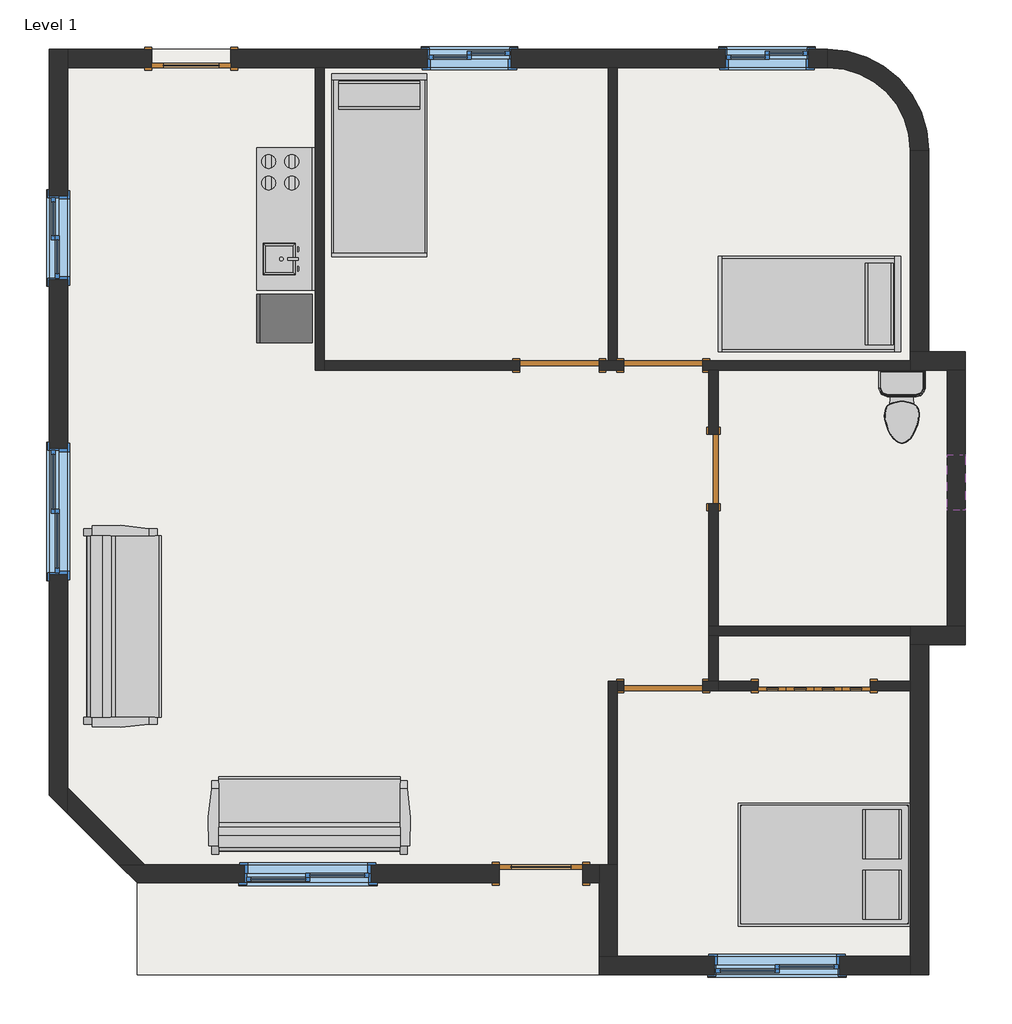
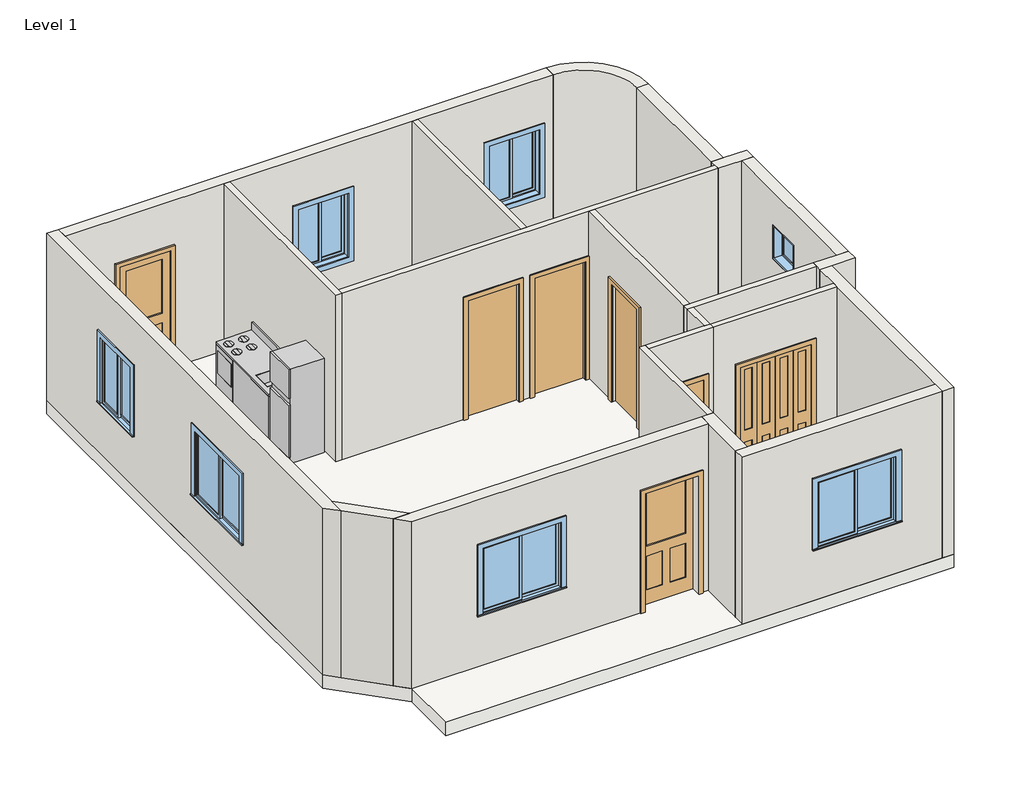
# One storey: 21 walls, 7 doors, 7 windows, 5 furniture elements, 2 flow terminals, 1 slab.
"""IFC4 building model written with IfcOpenShell, lengths in millimetres."""

from ifc_helpers import new_model, si_unit, point, frame, frame_2d, origin, origin_with_axes, place, context, project, spatial, polyline, circle_curve, trimmed, segment, composite_curve, outline, extrude, faceted_brep, transform, mapped, element, save
from components import m_bifold_4_panel_1220_x_2134mm_c9b228a8, m_single_decorative_1_0864_x_2134mm_a8b8a0d3, m_single_decorative_1_0914_x_2134mm_d79a5f66, m_single_flush_0762_x_2134mm_2f099e9c, m_single_flush_0864_x_2134mm_3838e64d, m_single_flush_0864_x_2134mm_bdbe8edc, m_kitchen_unit_635_mmx2135_mm_826748c3, m_toilet_domestic_3d_m_toilet_domestic_3d_5cb52bd4, m_toilet_domestic_3d_m_toilet_domestic_3d_183bbd19, m_bed_box_1346_x_1880mm_double_9a731973, m_bed_shaker_1040_x_1981mm_twin_31f1bf66, m_sofa_pensi_2134mm_eda8efce, m_fixed_0610_x_0610mm_cacddef9, m_sliding_with_trim_0915_x_1220mm_c5f69082, m_sliding_with_trim_1372_x_1220mm_1cbd48f5

model = new_model("IFC4")

# Units and contexts
model_context = context("Model", 3, world=origin())
ifc_project = project(units=[si_unit("LENGTHUNIT", "METRE", prefix="MILLI")], contexts=[model_context])

# Site, building, storey
site = spatial("IfcSite", under=ifc_project)
building = spatial("IfcBuilding", under=site)
storey = spatial("IfcBuildingStorey", under=building, Name="Level 1", Elevation=0.0)

# Doors
placement = place(None, origin())
m_bifold_4_panel_1220_x_2134mm_shape = m_bifold_4_panel_1220_x_2134mm_c9b228a8(model_context)
element("IfcDoor", 1, ObjectType="M_Bifold-4 Panel : 1220 x 2134mm", at=placement, inside=storey, context=model_context, shape_type="MappedRepresentation", body=[
    mapped(m_bifold_4_panel_1220_x_2134mm_shape, transform((-9012.9123896, -2705.4324328, 0.0), x_axis=(-1.0, 0.0, 0.0), y_axis=(0.0, -1.0, 0.0), z_axis=(0.0, 0.0, 1.0))),
])
m_single_decorative_1_0864_x_2134mm_shape = m_single_decorative_1_0864_x_2134mm_a8b8a0d3(model_context)
element("IfcDoor", 2, ObjectType="M_Single-Decorative 1 : 0864 x 2134mm", at=placement, inside=storey, context=model_context, shape_type="MappedRepresentation", body=[
    mapped(m_single_decorative_1_0864_x_2134mm_shape, transform((-15812.9123896, 4144.5675672, 0.0), x_axis=(-1.0, 0.0, 0.0), y_axis=(0.0, -1.0, 0.0), z_axis=(0.0, 0.0, 1.0))),
])
m_single_decorative_1_0914_x_2134mm_shape = m_single_decorative_1_0914_x_2134mm_d79a5f66(model_context)
element("IfcDoor", 3, ObjectType="M_Single-Decorative 1 : 0914 x 2134mm", at=placement, inside=storey, context=model_context, shape_type="MappedRepresentation", body=[
    mapped(m_single_decorative_1_0914_x_2134mm_shape, transform((-11994.9123896, -4755.4324328, 0.0), x_axis=(1.0, 0.0, 0.0), y_axis=(0.0, 1.0, 0.0), z_axis=(0.0, 0.0, 1.0))),
])
m_single_flush_0762_x_2134mm_shape = m_single_flush_0762_x_2134mm_2f099e9c(model_context)
element("IfcDoor", 4, ObjectType="M_Single-Flush : 0762 x 2134mm", at=placement, inside=storey, context=model_context, shape_type="MappedRepresentation", body=[
    mapped(m_single_flush_0762_x_2134mm_shape, transform((-10112.9123896, -336.4324328, 0.0), x_axis=(0.0, 1.0, 0.0), y_axis=(-1.0, 0.0, 0.0), z_axis=(0.0, 0.0, 1.0))),
])
m_single_flush_0864_x_2134mm_shape = m_single_flush_0864_x_2134mm_3838e64d(model_context)
element("IfcDoor", 5, ObjectType="M_Single-Flush : 0864 x 2134mm", at=placement, inside=storey, context=model_context, shape_type="MappedRepresentation", body=[
    mapped(m_single_flush_0864_x_2134mm_shape, transform((-10662.9123896, -2705.4324328, 0.0), x_axis=(-1.0, 0.0, 0.0), y_axis=(0.0, -1.0, 0.0), z_axis=(0.0, 0.0, 1.0))),
])
element("IfcDoor", 6, ObjectType="M_Single-Flush : 0864 x 2134mm", at=placement, inside=storey, context=model_context, shape_type="MappedRepresentation", body=[
    mapped(m_single_flush_0864_x_2134mm_shape, transform((-11794.9123896, 794.5675672, 0.0), x_axis=(1.0, 0.0, 0.0), y_axis=(0.0, 1.0, 0.0), z_axis=(0.0, 0.0, 1.0))),
])
m_single_flush_0864_x_2134mm_2_shape = m_single_flush_0864_x_2134mm_bdbe8edc(model_context)
element("IfcDoor", 7, ObjectType="M_Single-Flush : 0864 x 2134mm", at=placement, inside=storey, context=model_context, shape_type="MappedRepresentation", body=[
    mapped(m_single_flush_0864_x_2134mm_2_shape, transform((-10662.9123896, 794.5675672, 0.0), x_axis=(-1.0, 0.0, 0.0), y_axis=(0.0, -1.0, 0.0), z_axis=(0.0, 0.0, 1.0))),
])

# Flow terminals
m_kitchen_unit_635_mmx2135_mm_shape = m_kitchen_unit_635_mmx2135_mm_826748c3(model_context)
element("IfcFlowTerminal", 8, ObjectType="M_Kitchen Unit : 635 mmx2135 mm", at=placement, inside=storey, context=model_context, shape_type="MappedRepresentation", body=[
    mapped(m_kitchen_unit_635_mmx2135_mm_shape, transform((-14462.9123896, 2394.5675672, 0.0), x_axis=(-1.0000000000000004, 0.0, 0.0), y_axis=(0.0, -1.0000000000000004, 0.0), z_axis=(0.0, 0.0, 1.0))),
])
m_toilet_domestic_3d_m_toilet_domestic_3d_shape = m_toilet_domestic_3d_m_toilet_domestic_3d_5cb52bd4(model_context)
m_toilet_domestic_3d_m_toilet_domestic_3d_2_shape = m_toilet_domestic_3d_m_toilet_domestic_3d_183bbd19(model_context)
element("IfcFlowTerminal", 9, ObjectType="M_Toilet-Domestic-3D : M_Toilet-Domestic-3D", at=placement, inside=storey, context=model_context, shape_type="MappedRepresentation", body=[
    mapped(m_toilet_domestic_3d_m_toilet_domestic_3d_shape, transform((-8056.308417, 249.8715399, 0.0), x_axis=(1.0, 0.0, 0.0), y_axis=(0.0, 1.0, 0.0), z_axis=(0.0, 0.0, 1.0))),
    mapped(m_toilet_domestic_3d_m_toilet_domestic_3d_2_shape, transform((-8056.308417, 249.8715399, 0.0), x_axis=(1.0, 0.0, 0.0), y_axis=(0.0, 1.0, 0.0), z_axis=(0.0, 0.0, 1.0))),
])

# Furniture
m_bed_box_1346_x_1880mm_double_shape = m_bed_box_1346_x_1880mm_double_9a731973(model_context)
element("IfcFurniture", 10, ObjectType="M_Bed-Box : 1346 x 1880mm - Double", at=placement, inside=storey, context=model_context, shape_type="MappedRepresentation", body=[
    mapped(m_bed_box_1346_x_1880mm_double_shape, transform((-8668.4828814, -4316.2799738, 0.0), x_axis=(0.0, -1.0, 0.0), y_axis=(1.0, 0.0, 0.0), z_axis=(0.0, 0.0, 1.0))),
])
m_bed_shaker_1040_x_1981mm_twin_shape = m_bed_shaker_1040_x_1981mm_twin_31f1bf66(model_context)
element("IfcFurniture", 11, ObjectType="M_Bed-Shaker : 1040 x 1981mm - Twin", at=placement, inside=storey, context=model_context, shape_type="MappedRepresentation", body=[
    mapped(m_bed_shaker_1040_x_1981mm_twin_shape, transform((-8081.7123896, 1446.2175672, 0.0), x_axis=(0.0, -1.0000000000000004, 0.0), y_axis=(1.0000000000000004, 0.0, 0.0), z_axis=(0.0, 0.0, 1.0))),
])
element("IfcFurniture", 12, ObjectType="M_Bed-Shaker : 1040 x 1981mm - Twin", at=placement, inside=storey, context=model_context, shape_type="MappedRepresentation", body=[
    mapped(m_bed_shaker_1040_x_1981mm_twin_shape, transform((-13743.1623896, 3964.5675672, 0.0), x_axis=(1.0, 0.0, 0.0), y_axis=(0.0, 1.0, 0.0), z_axis=(0.0, 0.0, 1.0))),
])
m_sofa_pensi_2134mm_shape = m_sofa_pensi_2134mm_eda8efce(model_context)
element("IfcFurniture", 13, ObjectType="M_Sofa-Pensi : 2134mm", at=placement, inside=storey, context=model_context, shape_type="MappedRepresentation", body=[
    mapped(m_sofa_pensi_2134mm_shape, transform((-14244.3061396, -3838.3225967, 0.0), x_axis=(-0.9999999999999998, 0.0, 0.0), y_axis=(0.0, -0.9999999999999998, 0.0), z_axis=(0.0, 0.0, 1.0))),
])
element("IfcFurniture", 14, ObjectType="M_Sofa-Pensi : 2134mm", at=placement, inside=storey, context=model_context, shape_type="MappedRepresentation", body=[
    mapped(m_sofa_pensi_2134mm_shape, transform((-16285.8025536, -2334.0386828, 0.0), x_axis=(0.0, 1.0000000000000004, 0.0), y_axis=(-1.0000000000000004, 0.0, 0.0), z_axis=(0.0, 0.0, 1.0))),
])

# Slab
element("IfcSlab", 15, ObjectType="Standard Timber-Wood Finish", at=placement, inside=storey, context=model_context, shape_type="SweptSolid", body=[
    extrude(outline(composite_curve([segment(polyline([(-7762.9123896, 944.5675672), (-7362.9123896, 944.5675672), (-7362.9123896, -2255.4324328), (-7762.9123896, -2255.4324328), (-7762.9123896, -5855.4324328), (-16404.3337459, -5855.4324328), (-16404.3337459, -4855.4324328), (-17362.9123896, -3896.853789), (-17362.9123896, 4244.5675672), (-8862.9123896, 4244.5675672)]), True, "CONTINUOUS"), segment(trimmed(circle_curve(frame_2d((-8862.9123896, 3144.5675672)), 1100.0), [point((-8862.9123896, 4244.5675672))], [point((-7762.9123896, 3144.5675672))], False, "CARTESIAN"), True, "CONTINUOUS"), segment(polyline([(-7762.9123896, 3144.5675672), (-7762.9123896, 944.5675672)]), True, "CONTINUOUS")], self_intersect=False)), frame((0.0, 0.0, -241.0), z_axis=(0.0, 0.0, 1.0), x_axis=(1.0, 0.0, 0.0)), (0.0, 0.0, 1.0), 241.0),
])

# Walls
element("IfcWall", 16, ObjectType="Generic - 100mm", at=placement, inside=storey, context=model_context, shape_type="Brep", body=[
    faceted_brep([(-7962.9123896, -2055.4324328, 0.0), (-10062.9123896, -2055.4324328, 0.0), (-10162.9123896, -2055.4324328, 0.0), (-10162.9123896, -2055.4324328, 3000.0), (-10062.9123896, -2055.4324328, 3000.0), (-7962.9123896, -2055.4324328, 3000.0), (-7962.9123896, -2155.4324328, 0.0), (-7962.9123896, -2155.4324328, 3000.0), (-10062.9123896, -2155.4324328, 3000.0), (-10162.9123896, -2155.4324328, 3000.0), (-10162.9123896, -2155.4324328, 0.0), (-10062.9123896, -2155.4324328, 0.0)], [[[0, 1, 2, 3, 4, 5]], [[6, 7, 8, 9, 10, 11]], [[2, 1, 0, 6, 11, 10]], [[5, 4, 3, 9, 8, 7]], [[0, 5, 7, 6]], [[3, 2, 10, 9]]]),
])
element("IfcWall", 17, ObjectType="Generic - 100mm", at=placement, inside=storey, context=model_context, shape_type="Brep", body=[
    faceted_brep([(-11262.9123896, -2655.4324328, 0.0), (-11262.9123896, -4655.4324328, 0.0), (-11262.9123896, -4655.4324328, 3000.0), (-11262.9123896, -2655.4324328, 3000.0), (-11162.9123896, -2655.4324328, 0.0), (-11162.9123896, -2655.4324328, 3000.0), (-11162.9123896, -2755.4324328, 3000.0), (-11162.9123896, -4655.4324328, 3000.0), (-11162.9123896, -4655.4324328, 0.0), (-11162.9123896, -2755.4324328, 0.0)], [[[0, 1, 2, 3]], [[4, 5, 6, 7, 8, 9]], [[1, 0, 4, 9, 8]], [[3, 2, 7, 6, 5]], [[2, 1, 8, 7]], [[0, 3, 5, 4]]]),
])
element("IfcWall", 18, ObjectType="Generic - 100mm", at=placement, inside=storey, context=model_context, shape_type="Brep", body=[
    faceted_brep([(-11094.9123896, -2655.4324328, 2134.0), (-11094.9123896, -2655.4324328, 0.0), (-11162.9123896, -2655.4324328, 0.0), (-11162.9123896, -2655.4324328, 3000.0), (-10162.9123896, -2655.4324328, 3000.0), (-10062.9123896, -2655.4324328, 3000.0), (-10062.9123896, -2655.4324328, 0.0), (-10162.9123896, -2655.4324328, 0.0), (-10230.9123896, -2655.4324328, 0.0), (-10230.9123896, -2655.4324328, 2134.0), (-11162.9123896, -2755.4324328, 0.0), (-11094.9123896, -2755.4324328, 0.0), (-11094.9123896, -2755.4324328, 2134.0), (-10230.9123896, -2755.4324328, 2134.0), (-10230.9123896, -2755.4324328, 0.0), (-10062.9123896, -2755.4324328, 0.0), (-10062.9123896, -2755.4324328, 3000.0), (-11162.9123896, -2755.4324328, 3000.0)], [[[0, 1, 2, 3, 4, 5, 6, 7, 8, 9]], [[10, 11, 12, 13, 14, 15, 16, 17]], [[2, 1, 11, 10]], [[8, 7, 6, 15, 14]], [[5, 4, 3, 17, 16]], [[3, 2, 10, 17]], [[6, 5, 16, 15]], [[12, 11, 1, 0]], [[13, 12, 0, 9]], [[14, 13, 9, 8]]]),
])
element("IfcWall", 19, ObjectType="Generic - 100mm", at=placement, inside=storey, context=model_context, shape_type="SweptSolid", body=[
    extrude(outline(polyline([(-10162.9123896, -2655.4324328), (-10162.9123896, -2155.4324328), (-10062.9123896, -2155.4324328), (-10062.9123896, -2655.4324328), (-10162.9123896, -2655.4324328)])), origin_with_axes(), (0.0, 0.0, 1.0), 3000.0),
])
element("IfcWall", 20, ObjectType="Generic - 100mm", at=placement, inside=storey, context=model_context, shape_type="SweptSolid", body=[
    extrude(outline(polyline([(3000.0, -7962.9123896), (3000.0, -10062.9123896), (0.0, -10062.9123896), (0.0, -9622.9123896), (2134.0, -9622.9123896), (2134.0, -8402.9123896), (0.0, -8402.9123896), (0.0, -7962.9123896), (3000.0, -7962.9123896)])), frame((0.0, -2755.4324328, 0.0), z_axis=(0.0, 1.0, 0.0), x_axis=(0.0, 0.0, 1.0)), (0.0, 0.0, 1.0), 100.0),
])
element("IfcWall", 21, ObjectType="Generic - 100mm", at=placement, inside=storey, context=model_context, shape_type="Brep", body=[
    faceted_brep([(-11094.9123896, 844.5675672, 0.0), (-11162.9123896, 844.5675672, 0.0), (-11262.9123896, 844.5675672, 0.0), (-11362.9123896, 844.5675672, 0.0), (-11362.9123896, 844.5675672, 2134.0), (-12226.9123896, 844.5675672, 2134.0), (-12226.9123896, 844.5675672, 0.0), (-14362.9123896, 844.5675672, 0.0), (-14362.9123896, 844.5675672, 3000.0), (-11262.9123896, 844.5675672, 3000.0), (-11162.9123896, 844.5675672, 3000.0), (-7962.9123896, 844.5675672, 3000.0), (-7962.9123896, 844.5675672, 0.0), (-10230.9123896, 844.5675672, 0.0), (-10230.9123896, 844.5675672, 2134.0), (-11094.9123896, 844.5675672, 2134.0), (-11362.9123896, 744.5675672, 2134.0), (-11362.9123896, 744.5675672, 0.0), (-11094.9123896, 744.5675672, 0.0), (-11094.9123896, 744.5675672, 2134.0), (-10230.9123896, 744.5675672, 2134.0), (-10230.9123896, 744.5675672, 0.0), (-10162.9123896, 744.5675672, 0.0), (-10062.9123896, 744.5675672, 0.0), (-7962.9123896, 744.5675672, 0.0), (-7962.9123896, 744.5675672, 3000.0), (-10062.9123896, 744.5675672, 3000.0), (-10162.9123896, 744.5675672, 3000.0), (-14362.9123896, 744.5675672, 3000.0), (-14362.9123896, 744.5675672, 0.0), (-12226.9123896, 744.5675672, 0.0), (-12226.9123896, 744.5675672, 2134.0)], [[[0, 1, 2, 3, 4, 5, 6, 7, 8, 9, 10, 11, 12, 13, 14, 15]], [[16, 17, 18, 19, 20, 21, 22, 23, 24, 25, 26, 27, 28, 29, 30, 31]], [[13, 12, 24, 23, 22, 21]], [[30, 29, 7, 6]], [[18, 17, 3, 2, 1, 0]], [[11, 10, 9, 8, 28, 27, 26, 25]], [[12, 11, 25, 24]], [[8, 7, 29, 28]], [[19, 18, 0, 15]], [[20, 19, 15, 14]], [[21, 20, 14, 13]], [[4, 3, 17, 16]], [[5, 4, 16, 31]], [[6, 5, 31, 30]]]),
])
element("IfcWall", 22, ObjectType="Generic - 100mm", at=placement, inside=storey, context=model_context, shape_type="SweptSolid", body=[
    extrude(outline(polyline([(744.5675672, 0.0), (44.5675672, 0.0), (44.5675672, 2134.0), (-717.4324328, 2134.0), (-717.4324328, 0.0), (-2055.4324328, 0.0), (-2055.4324328, 3000.0), (744.5675672, 3000.0), (744.5675672, 0.0)])), frame((-10162.9123896, 0.0, 0.0), z_axis=(1.0, 0.0, 0.0), x_axis=(0.0, 1.0, 0.0)), (0.0, 0.0, 1.0), 100.0),
])
element("IfcWall", 23, ObjectType="Generic - 100mm", at=placement, inside=storey, context=model_context, shape_type="Brep", body=[
    faceted_brep([(-14462.9123896, 4044.5675672, 0.0), (-14462.9123896, 744.5675672, 0.0), (-14462.9123896, 744.5675672, 3000.0), (-14462.9123896, 4044.5675672, 3000.0), (-14362.9123896, 4044.5675672, 0.0), (-14362.9123896, 4044.5675672, 3000.0), (-14362.9123896, 844.5675672, 3000.0), (-14362.9123896, 744.5675672, 3000.0), (-14362.9123896, 744.5675672, 0.0), (-14362.9123896, 844.5675672, 0.0)], [[[0, 1, 2, 3]], [[4, 5, 6, 7, 8, 9]], [[1, 0, 4, 9, 8]], [[3, 2, 7, 6, 5]], [[0, 3, 5, 4]], [[2, 1, 8, 7]]]),
])
element("IfcWall", 24, ObjectType="Generic - 100mm", at=placement, inside=storey, context=model_context, shape_type="SweptSolid", body=[
    extrude(outline(polyline([(-11262.9123896, 844.5675672), (-11262.9123896, 4044.5675672), (-11162.9123896, 4044.5675672), (-11162.9123896, 844.5675672), (-11262.9123896, 844.5675672)])), origin_with_axes(), (0.0, 0.0, 1.0), 3000.0),
])
element("IfcWall", 25, ObjectType="Generic - 200mm", at=placement, inside=storey, context=model_context, shape_type="Brep", body=[
    faceted_brep([(-17162.9123896, -4096.853789, 0.0), (-17162.9123896, -3814.0110766, 0.0), (-17162.9123896, 4044.5675672, 0.0), (-17162.9123896, 4244.5675672, 0.0), (-17162.9123896, 4244.5675672, 3000.0), (-17162.9123896, 4044.5675672, 3000.0), (-17162.9123896, -3814.0110766, 3000.0), (-17162.9123896, -4096.853789, 3000.0), (-17162.9123896, -113.4824328, 2135.0), (-17162.9123896, -113.4824328, 915.0), (-17162.9123896, -1485.4824328, 915.0), (-17162.9123896, -1485.4824328, 2135.0), (-17162.9123896, 2644.5675672, 2135.0), (-17162.9123896, 2644.5675672, 915.0), (-17162.9123896, 1729.5675672, 915.0), (-17162.9123896, 1729.5675672, 2135.0), (-17362.9123896, -3896.853789, 0.0), (-17362.9123896, -3896.853789, 3000.0), (-17362.9123896, 4244.5675672, 3000.0), (-17362.9123896, 4244.5675672, 0.0), (-17362.9123896, -113.4824328, 2135.0), (-17362.9123896, -1485.4824328, 2135.0), (-17362.9123896, -1485.4824328, 915.0), (-17362.9123896, -113.4824328, 915.0), (-17362.9123896, 2644.5675672, 2135.0), (-17362.9123896, 1729.5675672, 2135.0), (-17362.9123896, 1729.5675672, 915.0), (-17362.9123896, 2644.5675672, 915.0)], [[[0, 1, 2, 3, 4, 5, 6, 7], [8, 9, 10, 11], [12, 13, 14, 15]], [[16, 17, 18, 19], [20, 21, 22, 23], [24, 25, 26, 27]], [[3, 2, 1, 0, 16, 19]], [[7, 6, 5, 4, 18, 17]], [[4, 3, 19, 18]], [[9, 8, 20, 23]], [[10, 9, 23, 22]], [[11, 10, 22, 21]], [[8, 11, 21, 20]], [[13, 12, 24, 27]], [[14, 13, 27, 26]], [[15, 14, 26, 25]], [[12, 15, 25, 24]], [[0, 7, 17, 16]]]),
])
element("IfcWall", 26, ObjectType="Generic - 200mm", at=placement, inside=storey, context=model_context, shape_type="Brep", body=[
    faceted_brep([(-8862.9123896, 4044.5675672, 0.0), (-8862.9123896, 4044.5675672, 3000.0), (-11162.9123896, 4044.5675672, 3000.0), (-11262.9123896, 4044.5675672, 3000.0), (-14362.9123896, 4044.5675672, 3000.0), (-14462.9123896, 4044.5675672, 3000.0), (-17162.9123896, 4044.5675672, 3000.0), (-17162.9123896, 4044.5675672, 0.0), (-16244.9123896, 4044.5675672, 0.0), (-16244.9123896, 4044.5675672, 2134.0), (-15380.9123896, 4044.5675672, 2134.0), (-15380.9123896, 4044.5675672, 0.0), (-14462.9123896, 4044.5675672, 0.0), (-14362.9123896, 4044.5675672, 0.0), (-11262.9123896, 4044.5675672, 0.0), (-11162.9123896, 4044.5675672, 0.0), (-9070.4373896, 4044.5675672, 2135.0), (-9070.4373896, 4044.5675672, 915.0), (-9985.4373896, 4044.5675672, 915.0), (-9985.4373896, 4044.5675672, 2135.0), (-12320.4373896, 4044.5675672, 2135.0), (-12320.4373896, 4044.5675672, 915.0), (-13235.4373896, 4044.5675672, 915.0), (-13235.4373896, 4044.5675672, 2135.0), (-8862.9123896, 4244.5675672, 3000.0), (-8862.9123896, 4244.5675672, 0.0), (-15380.9123896, 4244.5675672, 0.0), (-15380.9123896, 4244.5675672, 2134.0), (-16244.9123896, 4244.5675672, 2134.0), (-16244.9123896, 4244.5675672, 0.0), (-17162.9123896, 4244.5675672, 0.0), (-17162.9123896, 4244.5675672, 3000.0), (-9070.4373896, 4244.5675672, 2135.0), (-9985.4373896, 4244.5675672, 2135.0), (-9985.4373896, 4244.5675672, 915.0), (-9070.4373896, 4244.5675672, 915.0), (-12320.4373896, 4244.5675672, 2135.0), (-13235.4373896, 4244.5675672, 2135.0), (-13235.4373896, 4244.5675672, 915.0), (-12320.4373896, 4244.5675672, 915.0)], [[[0, 1, 2, 3, 4, 5, 6, 7, 8, 9, 10, 11, 12, 13, 14, 15], [16, 17, 18, 19], [20, 21, 22, 23]], [[24, 25, 26, 27, 28, 29, 30, 31], [32, 33, 34, 35], [36, 37, 38, 39]], [[7, 30, 29, 8]], [[25, 0, 15, 14, 13, 12, 11, 26]], [[1, 0, 25, 24]], [[6, 5, 4, 3, 2, 1, 24, 31]], [[7, 6, 31, 30]], [[28, 9, 8, 29]], [[9, 28, 27, 10]], [[10, 27, 26, 11]], [[17, 16, 32, 35]], [[18, 17, 35, 34]], [[19, 18, 34, 33]], [[16, 19, 33, 32]], [[21, 20, 36, 39]], [[22, 21, 39, 38]], [[23, 22, 38, 37]], [[20, 23, 37, 36]]]),
])
element("IfcWall", 27, ObjectType="Generic - 200mm", at=placement, inside=storey, context=model_context, shape_type="SweptSolid", body=[
    extrude(outline(polyline([(-7962.9123896, 944.5675672), (-7962.9123896, 3144.5675672), (-7762.9123896, 3144.5675672), (-7762.9123896, 944.5675672), (-7962.9123896, 944.5675672)])), origin_with_axes(), (0.0, 0.0, 1.0), 3000.0),
])
element("IfcWall", 28, ObjectType="Generic - 200mm", at=placement, inside=storey, context=model_context, shape_type="Brep", body=[
    faceted_brep([(-7962.9123896, 744.5675672, 0.0), (-7562.9123896, 744.5675672, 0.0), (-7362.9123896, 744.5675672, 0.0), (-7362.9123896, 744.5675672, 3000.0), (-7562.9123896, 744.5675672, 3000.0), (-7962.9123896, 744.5675672, 3000.0), (-7962.9123896, 944.5675672, 0.0), (-7962.9123896, 944.5675672, 3000.0), (-7762.9123896, 944.5675672, 3000.0), (-7362.9123896, 944.5675672, 3000.0), (-7362.9123896, 944.5675672, 0.0), (-7762.9123896, 944.5675672, 0.0), (-7962.9123896, 844.5675672, 0.0), (-7962.9123896, 844.5675672, 3000.0)], [[[0, 1, 2, 3, 4, 5]], [[6, 7, 8, 9, 10, 11]], [[2, 1, 0, 12, 6, 11, 10]], [[5, 4, 3, 9, 8, 7, 13]], [[0, 5, 13, 7, 6, 12]], [[3, 2, 10, 9]]]),
])
element("IfcWall", 29, ObjectType="Generic - 200mm", at=placement, inside=storey, context=model_context, shape_type="SweptSolid", body=[
    extrude(outline(polyline([(744.5675672, 0.0), (-2055.4324328, 0.0), (-2055.4324328, 3000.0), (744.5675672, 3000.0), (744.5675672, 0.0)]), holes=[polyline([(-177.8824328, 1800.0), (-177.8824328, 2410.0), (-787.8824328, 2410.0), (-787.8824328, 1800.0), (-177.8824328, 1800.0)])]), frame((-7562.9123896, 0.0, 0.0), z_axis=(1.0, 0.0, 0.0), x_axis=(0.0, 1.0, 0.0)), (0.0, 0.0, 1.0), 200.0),
])
element("IfcWall", 30, ObjectType="Generic - 200mm", at=placement, inside=storey, context=model_context, shape_type="Brep", body=[
    faceted_brep([(-7362.9123896, -2055.4324328, 0.0), (-7562.9123896, -2055.4324328, 0.0), (-7962.9123896, -2055.4324328, 0.0), (-7962.9123896, -2055.4324328, 3000.0), (-7562.9123896, -2055.4324328, 3000.0), (-7362.9123896, -2055.4324328, 3000.0), (-7362.9123896, -2255.4324328, 0.0), (-7362.9123896, -2255.4324328, 3000.0), (-7762.9123896, -2255.4324328, 3000.0), (-7962.9123896, -2255.4324328, 3000.0), (-7962.9123896, -2255.4324328, 0.0), (-7762.9123896, -2255.4324328, 0.0), (-7962.9123896, -2155.4324328, 0.0), (-7962.9123896, -2155.4324328, 3000.0)], [[[0, 1, 2, 3, 4, 5]], [[6, 7, 8, 9, 10, 11]], [[2, 1, 0, 6, 11, 10, 12]], [[5, 4, 3, 13, 9, 8, 7]], [[0, 5, 7, 6]], [[3, 2, 12, 10, 9, 13]]]),
])
element("IfcWall", 31, ObjectType="Generic - 200mm", at=placement, inside=storey, context=model_context, shape_type="Brep", body=[
    faceted_brep([(-7962.9123896, -2255.4324328, 0.0), (-7962.9123896, -2655.4324328, 0.0), (-7962.9123896, -2755.4324328, 0.0), (-7962.9123896, -5655.4324328, 0.0), (-7962.9123896, -5855.4324328, 0.0), (-7962.9123896, -5855.4324328, 3000.0), (-7962.9123896, -5655.4324328, 3000.0), (-7962.9123896, -2755.4324328, 3000.0), (-7962.9123896, -2655.4324328, 3000.0), (-7962.9123896, -2255.4324328, 3000.0), (-7762.9123896, -2255.4324328, 0.0), (-7762.9123896, -2255.4324328, 3000.0), (-7762.9123896, -5855.4324328, 3000.0), (-7762.9123896, -5855.4324328, 0.0)], [[[0, 1, 2, 3, 4, 5, 6, 7, 8, 9]], [[10, 11, 12, 13]], [[4, 3, 2, 1, 0, 10, 13]], [[9, 8, 7, 6, 5, 12, 11]], [[0, 9, 11, 10]], [[5, 4, 13, 12]]]),
])
element("IfcWall", 32, ObjectType="Generic - 200mm", at=placement, inside=storey, context=model_context, shape_type="Brep", body=[
    faceted_brep([(-7962.9123896, -5655.4324328, 0.0), (-11162.9123896, -5655.4324328, 0.0), (-11362.9123896, -5655.4324328, 0.0), (-11362.9123896, -5655.4324328, 3000.0), (-11162.9123896, -5655.4324328, 3000.0), (-7962.9123896, -5655.4324328, 3000.0), (-10104.8623896, -5655.4324328, 2135.0), (-10104.8623896, -5655.4324328, 915.0), (-8732.8623896, -5655.4324328, 915.0), (-8732.8623896, -5655.4324328, 2135.0), (-7962.9123896, -5855.4324328, 0.0), (-7962.9123896, -5855.4324328, 3000.0), (-11362.9123896, -5855.4324328, 3000.0), (-11362.9123896, -5855.4324328, 0.0), (-10104.8623896, -5855.4324328, 2135.0), (-8732.8623896, -5855.4324328, 2135.0), (-8732.8623896, -5855.4324328, 915.0), (-10104.8623896, -5855.4324328, 915.0)], [[[0, 1, 2, 3, 4, 5], [6, 7, 8, 9]], [[10, 11, 12, 13], [14, 15, 16, 17]], [[2, 1, 0, 10, 13]], [[5, 4, 3, 12, 11]], [[0, 5, 11, 10]], [[3, 2, 13, 12]], [[7, 6, 14, 17]], [[8, 7, 17, 16]], [[9, 8, 16, 15]], [[6, 9, 15, 14]]]),
])
element("IfcWall", 33, ObjectType="Generic - 200mm", at=placement, inside=storey, context=model_context, shape_type="Brep", body=[
    faceted_brep([(-11162.9123896, -5655.4324328, 0.0), (-11162.9123896, -4655.4324328, 0.0), (-11162.9123896, -4655.4324328, 3000.0), (-11162.9123896, -5655.4324328, 3000.0), (-11362.9123896, -5655.4324328, 0.0), (-11362.9123896, -5655.4324328, 3000.0), (-11362.9123896, -4855.4324328, 3000.0), (-11362.9123896, -4655.4324328, 3000.0), (-11362.9123896, -4655.4324328, 0.0), (-11362.9123896, -4855.4324328, 0.0), (-11262.9123896, -4655.4324328, 0.0), (-11262.9123896, -4655.4324328, 3000.0)], [[[0, 1, 2, 3]], [[4, 5, 6, 7, 8, 9]], [[1, 0, 4, 9, 8, 10]], [[3, 2, 11, 7, 6, 5]], [[0, 3, 5, 4]], [[2, 1, 10, 8, 7, 11]]]),
])
element("IfcWall", 34, ObjectType="Generic - 200mm", at=placement, inside=storey, context=model_context, shape_type="Brep", body=[
    faceted_brep([(-16604.3337459, -4655.4324328, 3000.0), (-16321.4910334, -4655.4324328, 3000.0), (-11362.9123896, -4655.4324328, 3000.0), (-11362.9123896, -4655.4324328, 0.0), (-11537.9123896, -4655.4324328, 0.0), (-11537.9123896, -4655.4324328, 2134.0), (-12451.9123896, -4655.4324328, 2134.0), (-12451.9123896, -4655.4324328, 0.0), (-16321.4910334, -4655.4324328, 0.0), (-16604.3337459, -4655.4324328, 0.0), (-15228.3873896, -4655.4324328, 2135.0), (-15228.3873896, -4655.4324328, 915.0), (-13856.3873896, -4655.4324328, 915.0), (-13856.3873896, -4655.4324328, 2135.0), (-11362.9123896, -4855.4324328, 3000.0), (-16404.3337459, -4855.4324328, 3000.0), (-16404.3337459, -4855.4324328, 0.0), (-12451.9123896, -4855.4324328, 0.0), (-12451.9123896, -4855.4324328, 2134.0), (-11537.9123896, -4855.4324328, 2134.0), (-11537.9123896, -4855.4324328, 0.0), (-11362.9123896, -4855.4324328, 0.0), (-15228.3873896, -4855.4324328, 2135.0), (-13856.3873896, -4855.4324328, 2135.0), (-13856.3873896, -4855.4324328, 915.0), (-15228.3873896, -4855.4324328, 915.0)], [[[0, 1, 2, 3, 4, 5, 6, 7, 8, 9], [10, 11, 12, 13]], [[14, 15, 16, 17, 18, 19, 20, 21], [22, 23, 24, 25]], [[3, 21, 20, 4]], [[16, 9, 8, 7, 17]], [[2, 1, 0, 15, 14]], [[19, 5, 4, 20]], [[5, 19, 18, 6]], [[6, 18, 17, 7]], [[11, 10, 22, 25]], [[12, 11, 25, 24]], [[13, 12, 24, 23]], [[10, 13, 23, 22]], [[3, 2, 14, 21]], [[0, 9, 16, 15]]]),
])
element("IfcWall", 35, ObjectType="Generic - 200mm", at=placement, inside=storey, context=model_context, shape_type="SweptSolid", body=[
    extrude(outline(composite_curve([segment(polyline([(-8862.9123896, 4044.5675672), (-8862.9123896, 4244.5675672)]), True, "CONTINUOUS"), segment(trimmed(circle_curve(frame_2d((-8862.9123896, 3144.5675672)), 1100.0), [point((-8862.9123896, 4244.5675672))], [point((-7762.9123896, 3144.5675672))], False, "CARTESIAN"), True, "CONTINUOUS"), segment(polyline([(-7762.9123896, 3144.5675672), (-7962.9123896, 3144.5675672)]), True, "CONTINUOUS"), segment(trimmed(circle_curve(frame_2d((-8862.9123896, 3144.5675672)), 900.0), [point((-7962.9123896, 3144.5675672))], [point((-8862.9123896, 4044.5675672))], True, "CARTESIAN"), True, "CONTINUOUS")], self_intersect=False)), origin_with_axes(), (0.0, 0.0, 1.0), 3000.0),
])
element("IfcWall", 36, ObjectType="Generic - 200mm", at=placement, inside=storey, context=model_context, shape_type="SweptSolid", body=[
    extrude(outline(polyline([(-17162.9123896, -3814.0110766), (-16321.4910334, -4655.4324328), (-16604.3337459, -4655.4324328), (-17162.9123896, -4096.853789), (-17162.9123896, -3814.0110766)])), origin_with_axes(), (0.0, 0.0, 1.0), 3000.0),
])

# Windows
m_fixed_0610_x_0610mm_shape = m_fixed_0610_x_0610mm_cacddef9(model_context)
element("IfcWindow", 37, ObjectType="M_Fixed : 0610 x 0610mm", at=placement, inside=storey, context=model_context, shape_type="MappedRepresentation", body=[
    mapped(m_fixed_0610_x_0610mm_shape, transform((-7475.9123896, -482.8824328, 885.0), x_axis=(0.0, -1.0, 0.0), y_axis=(1.0, 0.0, 0.0), z_axis=(0.0, 0.0, 1.0))),
])
m_sliding_with_trim_0915_x_1220mm_shape = m_sliding_with_trim_0915_x_1220mm_c5f69082(model_context)
element("IfcWindow", 38, ObjectType="M_Sliding with Trim : 0915 x 1220mm", at=placement, inside=storey, context=model_context, shape_type="MappedRepresentation", body=[
    mapped(m_sliding_with_trim_0915_x_1220mm_shape, transform((-9527.9373896, 4144.5675672, 0.0), x_axis=(1.0, 0.0, 0.0), y_axis=(0.0, 1.0, 0.0), z_axis=(0.0, 0.0, 1.0))),
])
element("IfcWindow", 39, ObjectType="M_Sliding with Trim : 0915 x 1220mm", at=placement, inside=storey, context=model_context, shape_type="MappedRepresentation", body=[
    mapped(m_sliding_with_trim_0915_x_1220mm_shape, transform((-12777.9373896, 4144.5675672, 0.0), x_axis=(1.0, 0.0, 0.0), y_axis=(0.0, 1.0, 0.0), z_axis=(0.0, 0.0, 1.0))),
])
element("IfcWindow", 40, ObjectType="M_Sliding with Trim : 0915 x 1220mm", at=placement, inside=storey, context=model_context, shape_type="MappedRepresentation", body=[
    mapped(m_sliding_with_trim_0915_x_1220mm_shape, transform((-17262.9123896, 2187.0675672, 0.0), x_axis=(0.0, 1.0, 0.0), y_axis=(-1.0, 0.0, 0.0), z_axis=(0.0, 0.0, 1.0))),
])
m_sliding_with_trim_1372_x_1220mm_shape = m_sliding_with_trim_1372_x_1220mm_1cbd48f5(model_context)
element("IfcWindow", 41, ObjectType="M_Sliding with Trim : 1372 x 1220mm", at=placement, inside=storey, context=model_context, shape_type="MappedRepresentation", body=[
    mapped(m_sliding_with_trim_1372_x_1220mm_shape, transform((-14542.3873896, -4755.4324328, 0.0), x_axis=(-1.0, 0.0, 0.0), y_axis=(0.0, -1.0, 0.0), z_axis=(0.0, 0.0, 1.0))),
])
element("IfcWindow", 42, ObjectType="M_Sliding with Trim : 1372 x 1220mm", at=placement, inside=storey, context=model_context, shape_type="MappedRepresentation", body=[
    mapped(m_sliding_with_trim_1372_x_1220mm_shape, transform((-17262.9123896, -799.4824328, 0.0), x_axis=(0.0, 1.0, 0.0), y_axis=(-1.0, 0.0, 0.0), z_axis=(0.0, 0.0, 1.0))),
])
element("IfcWindow", 43, ObjectType="M_Sliding with Trim : 1372 x 1220mm", at=placement, inside=storey, context=model_context, shape_type="MappedRepresentation", body=[
    mapped(m_sliding_with_trim_1372_x_1220mm_shape, transform((-9418.8623896, -5755.4324328, 0.0), x_axis=(-1.0, 0.0, 0.0), y_axis=(0.0, -1.0, 0.0), z_axis=(0.0, 0.0, 1.0))),
])

save(model, "model.ifc")
